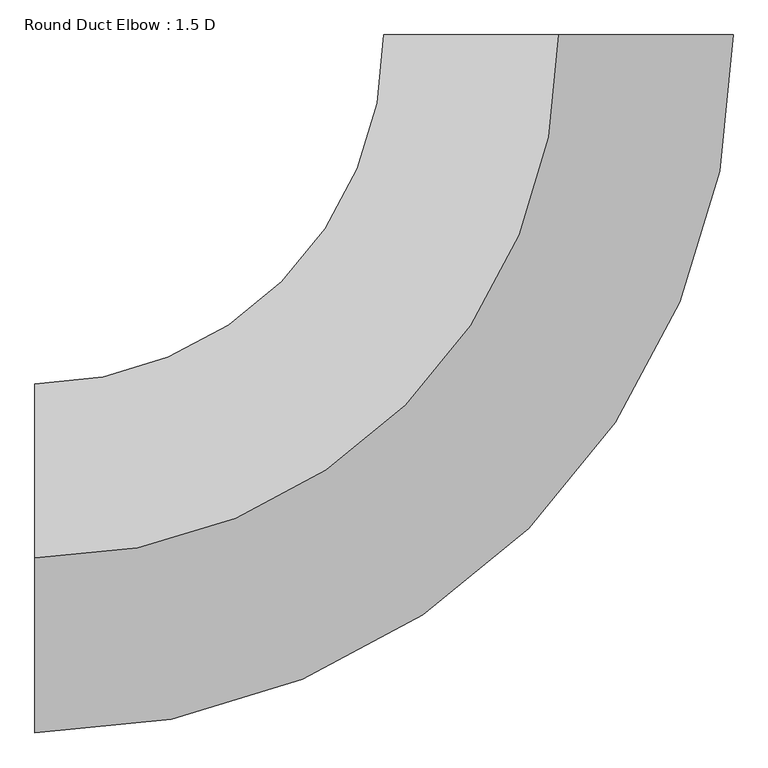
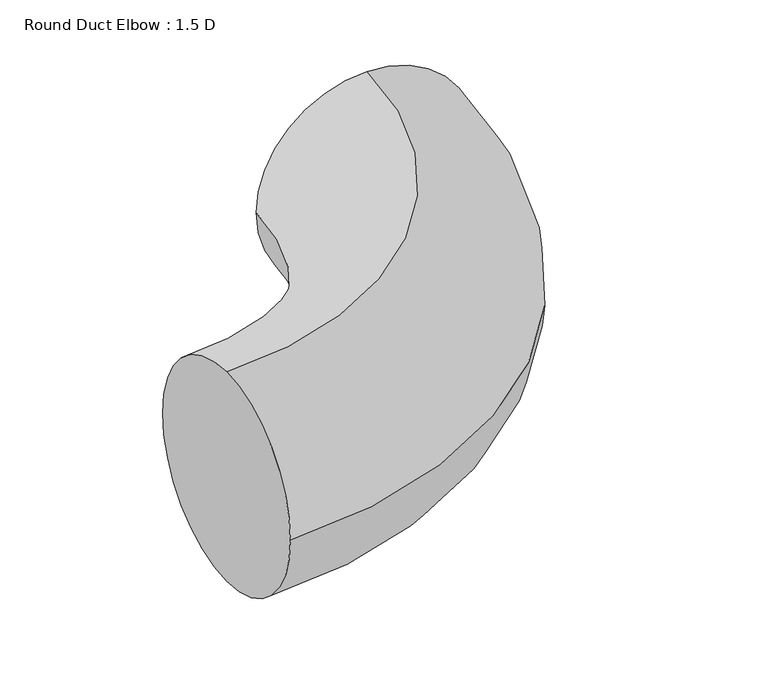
"""IFC4 building model written with IfcOpenShell, lengths in millimetres: duct fitting geometry, Round Duct Elbow : 1.5 D."""

from ifc_helpers import new_model, si_unit, point, frame, origin, place, context, project, spatial, circle_curve, ellipse_curve, trimmed, source, transform, mapped, element, save
from ifc_brep_helpers import plane_surface, revolved_surface, advanced_brep


def round_duct_elbow_1_5_d_5213bb2c(model_context):
    return source(origin(), model_context, "Body", "AdvancedBrep", [
        advanced_brep(
        [(-838.2, 0.0, 279.4), (-838.2, 279.4, 0.0), (-838.2, 0.0, -279.4), (-838.2, -279.4, 0.0), (0.0, 838.2, 279.4), (279.4, 838.2, 0.0), (0.0, 838.2, -279.4), (-279.4, 838.2, 0.0)],
        [
            (0, 1, circle_curve(frame((-838.2, 0.0, 0.0), z_axis=(-1.0, 0.0, 0.0), x_axis=(0.0, 1.0, 0.0)), 279.4)),
            (1, 2, circle_curve(frame((-838.2, 0.0, 0.0), z_axis=(-1.0, 0.0, 0.0), x_axis=(0.0, 1.0, 0.0)), 279.4)),
            (2, 3, circle_curve(frame((-838.2, 0.0, 0.0), z_axis=(-1.0, 0.0, 0.0), x_axis=(0.0, 1.0, 0.0)), 279.4)),
            (3, 0, circle_curve(frame((-838.2, 0.0, 0.0), z_axis=(-1.0, 0.0, 0.0), x_axis=(0.0, 1.0, 0.0)), 279.4)),
            (4, 5, circle_curve(frame((0.0, 838.2, 0.0), z_axis=(0.0, 1.0, 0.0), x_axis=(-1.0, 0.0, 0.0)), 279.4)),
            (5, 6, circle_curve(frame((0.0, 838.2, 0.0), z_axis=(0.0, 1.0, 0.0), x_axis=(-1.0, 0.0, 0.0)), 279.4)),
            (6, 7, circle_curve(frame((0.0, 838.2, 0.0), z_axis=(0.0, 1.0, 0.0), x_axis=(-1.0, 0.0, 0.0)), 279.4)),
            (7, 4, circle_curve(frame((0.0, 838.2, 0.0), z_axis=(0.0, 1.0, 0.0), x_axis=(-1.0, 0.0, 0.0)), 279.4)),
            (7, 1, circle_curve(frame((-838.2, 838.2, 0.0), z_axis=(0.0, 0.0, -1.0), x_axis=(0.0, -1.0, 0.0)), 558.8)),
            (0, 4, circle_curve(frame((-838.2, 838.2, 279.4), z_axis=(0.0, 0.0, 1.0), x_axis=(0.0, -1.0, 0.0)), 838.2)),
            (6, 2, circle_curve(frame((-838.2, 838.2, -279.4), z_axis=(0.0, 0.0, -1.0), x_axis=(0.0, -1.0, 0.0)), 838.2)),
            (5, 3, circle_curve(frame((-838.2, 838.2, 0.0), z_axis=(0.0, 0.0, -1.0), x_axis=(0.0, -1.0, 0.0)), 1117.6)),
        ],
        [
            plane_surface(frame((-838.2, 0.0, 0.0), z_axis=(-1.0, 0.0, 0.0), x_axis=(0.0, 0.0, 1.0))),
            plane_surface(frame((0.0, 838.2, 0.0), z_axis=(0.0, 1.0, 0.0), x_axis=(0.0, 0.0, 1.0))),
            revolved_surface(trimmed(ellipse_curve(frame((-838.2, 0.0, 0.0), z_axis=(-1.0, 0.0, 0.0), x_axis=(0.0, 1.0, 0.0)), 279.4, 279.4), [point((-838.2, 0.0, 279.4))], [point((-838.2, 279.4, 0.0))], True, "CARTESIAN"), (-838.2, 838.2, 0.0), (0.0, 0.0, 1.0)),
            revolved_surface(trimmed(ellipse_curve(frame((-838.2, 0.0, 0.0), z_axis=(-1.0, 0.0, 0.0), x_axis=(0.0, 1.0, 0.0)), 279.4, 279.4), [point((-838.2, 279.4, 0.0))], [point((-838.2, 0.0, -279.4))], True, "CARTESIAN"), (-838.2, 838.2, 0.0), (0.0, 0.0, 1.0)),
            revolved_surface(trimmed(ellipse_curve(frame((-838.2, 0.0, 0.0), z_axis=(-1.0, 0.0, 0.0), x_axis=(0.0, 1.0, 0.0)), 279.4, 279.4), [point((-838.2, 0.0, -279.4))], [point((-838.2, -279.4, 0.0))], True, "CARTESIAN"), (-838.2, 838.2, 0.0), (0.0, 0.0, 1.0)),
            revolved_surface(trimmed(ellipse_curve(frame((-838.2, 0.0, 0.0), z_axis=(-1.0, 0.0, 0.0), x_axis=(0.0, 1.0, 0.0)), 279.4, 279.4), [point((-838.2, -279.4, 0.0))], [point((-838.2, 0.0, 279.4))], True, "CARTESIAN"), (-838.2, 838.2, 0.0), (0.0, 0.0, 1.0)),
        ],
        [
            (0, [[1, 2, 3, 4]]),
            (1, [[5, 6, 7, 8]]),
            (2, [[9, -1, 10, -8]]),
            (3, [[11, -2, -9, -7]]),
            (4, [[12, -3, -11, -6]]),
            (5, [[-10, -4, -12, -5]]),
        ],
    ),
        advanced_brep(
        [(-838.2, 0.0, 279.4), (-838.2, 279.4, 0.0), (-838.2, 0.0, -279.4), (-838.2, -279.4, 0.0), (0.0, 838.2, 279.4), (279.4, 838.2, 0.0), (0.0, 838.2, -279.4), (-279.4, 838.2, 0.0)],
        [
            (0, 1, circle_curve(frame((-838.2, 0.0, 0.0), z_axis=(-1.0, 0.0, 0.0), x_axis=(0.0, 1.0, 0.0)), 279.4)),
            (1, 2, circle_curve(frame((-838.2, 0.0, 0.0), z_axis=(-1.0, 0.0, 0.0), x_axis=(0.0, 1.0, 0.0)), 279.4)),
            (2, 3, circle_curve(frame((-838.2, 0.0, 0.0), z_axis=(-1.0, 0.0, 0.0), x_axis=(0.0, 1.0, 0.0)), 279.4)),
            (3, 0, circle_curve(frame((-838.2, 0.0, 0.0), z_axis=(-1.0, 0.0, 0.0), x_axis=(0.0, 1.0, 0.0)), 279.4)),
            (4, 5, circle_curve(frame((0.0, 838.2, 0.0), z_axis=(0.0, 1.0, 0.0), x_axis=(-1.0, 0.0, 0.0)), 279.4)),
            (5, 6, circle_curve(frame((0.0, 838.2, 0.0), z_axis=(0.0, 1.0, 0.0), x_axis=(-1.0, 0.0, 0.0)), 279.4)),
            (6, 7, circle_curve(frame((0.0, 838.2, 0.0), z_axis=(0.0, 1.0, 0.0), x_axis=(-1.0, 0.0, 0.0)), 279.4)),
            (7, 4, circle_curve(frame((0.0, 838.2, 0.0), z_axis=(0.0, 1.0, 0.0), x_axis=(-1.0, 0.0, 0.0)), 279.4)),
            (7, 1, circle_curve(frame((-838.2, 838.2, 0.0), z_axis=(0.0, 0.0, -1.0), x_axis=(0.0, -1.0, 0.0)), 558.8)),
            (0, 4, circle_curve(frame((-838.2, 838.2, 279.4), z_axis=(0.0, 0.0, 1.0), x_axis=(0.0, -1.0, 0.0)), 838.2)),
            (6, 2, circle_curve(frame((-838.2, 838.2, -279.4), z_axis=(0.0, 0.0, -1.0), x_axis=(0.0, -1.0, 0.0)), 838.2)),
            (5, 3, circle_curve(frame((-838.2, 838.2, 0.0), z_axis=(0.0, 0.0, -1.0), x_axis=(0.0, -1.0, 0.0)), 1117.6)),
        ],
        [
            plane_surface(frame((-838.2, 0.0, 0.0), z_axis=(-1.0, 0.0, 0.0), x_axis=(0.0, 0.0, 1.0))),
            plane_surface(frame((0.0, 838.2, 0.0), z_axis=(0.0, 1.0, 0.0), x_axis=(0.0, 0.0, 1.0))),
            revolved_surface(trimmed(ellipse_curve(frame((-838.2, 0.0, 0.0), z_axis=(-1.0, 0.0, 0.0), x_axis=(0.0, 1.0, 0.0)), 279.4, 279.4), [point((-838.2, 0.0, 279.4))], [point((-838.2, 279.4, 0.0))], True, "CARTESIAN"), (-838.2, 838.2, 0.0), (0.0, 0.0, 1.0)),
            revolved_surface(trimmed(ellipse_curve(frame((-838.2, 0.0, 0.0), z_axis=(-1.0, 0.0, 0.0), x_axis=(0.0, 1.0, 0.0)), 279.4, 279.4), [point((-838.2, 279.4, 0.0))], [point((-838.2, 0.0, -279.4))], True, "CARTESIAN"), (-838.2, 838.2, 0.0), (0.0, 0.0, 1.0)),
            revolved_surface(trimmed(ellipse_curve(frame((-838.2, 0.0, 0.0), z_axis=(-1.0, 0.0, 0.0), x_axis=(0.0, 1.0, 0.0)), 279.4, 279.4), [point((-838.2, 0.0, -279.4))], [point((-838.2, -279.4, 0.0))], True, "CARTESIAN"), (-838.2, 838.2, 0.0), (0.0, 0.0, 1.0)),
            revolved_surface(trimmed(ellipse_curve(frame((-838.2, 0.0, 0.0), z_axis=(-1.0, 0.0, 0.0), x_axis=(0.0, 1.0, 0.0)), 279.4, 279.4), [point((-838.2, -279.4, 0.0))], [point((-838.2, 0.0, 279.4))], True, "CARTESIAN"), (-838.2, 838.2, 0.0), (0.0, 0.0, 1.0)),
        ],
        [
            (0, [[1, 2, 3, 4]]),
            (1, [[5, 6, 7, 8]]),
            (2, [[9, -1, 10, -8]]),
            (3, [[11, -2, -9, -7]]),
            (4, [[12, -3, -11, -6]]),
            (5, [[-10, -4, -12, -5]]),
        ],
    ),
        advanced_brep(
        [(-838.2, 0.0, 279.4), (-838.2, 279.4, 0.0), (-838.2, 0.0, -279.4), (-838.2, -279.4, 0.0), (0.0, 838.2, 279.4), (279.4, 838.2, 0.0), (0.0, 838.2, -279.4), (-279.4, 838.2, 0.0)],
        [
            (0, 1, circle_curve(frame((-838.2, 0.0, 0.0), z_axis=(-1.0, 0.0, 0.0), x_axis=(0.0, 1.0, 0.0)), 279.4)),
            (1, 2, circle_curve(frame((-838.2, 0.0, 0.0), z_axis=(-1.0, 0.0, 0.0), x_axis=(0.0, 1.0, 0.0)), 279.4)),
            (2, 3, circle_curve(frame((-838.2, 0.0, 0.0), z_axis=(-1.0, 0.0, 0.0), x_axis=(0.0, 1.0, 0.0)), 279.4)),
            (3, 0, circle_curve(frame((-838.2, 0.0, 0.0), z_axis=(-1.0, 0.0, 0.0), x_axis=(0.0, 1.0, 0.0)), 279.4)),
            (4, 5, circle_curve(frame((0.0, 838.2, 0.0), z_axis=(0.0, 1.0, 0.0), x_axis=(-1.0, 0.0, 0.0)), 279.4)),
            (5, 6, circle_curve(frame((0.0, 838.2, 0.0), z_axis=(0.0, 1.0, 0.0), x_axis=(-1.0, 0.0, 0.0)), 279.4)),
            (6, 7, circle_curve(frame((0.0, 838.2, 0.0), z_axis=(0.0, 1.0, 0.0), x_axis=(-1.0, 0.0, 0.0)), 279.4)),
            (7, 4, circle_curve(frame((0.0, 838.2, 0.0), z_axis=(0.0, 1.0, 0.0), x_axis=(-1.0, 0.0, 0.0)), 279.4)),
            (7, 1, circle_curve(frame((-838.2, 838.2, 0.0), z_axis=(0.0, 0.0, -1.0), x_axis=(0.0, -1.0, 0.0)), 558.8)),
            (0, 4, circle_curve(frame((-838.2, 838.2, 279.4), z_axis=(0.0, 0.0, 1.0), x_axis=(0.0, -1.0, 0.0)), 838.2)),
            (6, 2, circle_curve(frame((-838.2, 838.2, -279.4), z_axis=(0.0, 0.0, -1.0), x_axis=(0.0, -1.0, 0.0)), 838.2)),
            (5, 3, circle_curve(frame((-838.2, 838.2, 0.0), z_axis=(0.0, 0.0, -1.0), x_axis=(0.0, -1.0, 0.0)), 1117.6)),
        ],
        [
            plane_surface(frame((-838.2, 0.0, 0.0), z_axis=(-1.0, 0.0, 0.0), x_axis=(0.0, 0.0, 1.0))),
            plane_surface(frame((0.0, 838.2, 0.0), z_axis=(0.0, 1.0, 0.0), x_axis=(0.0, 0.0, 1.0))),
            revolved_surface(trimmed(ellipse_curve(frame((-838.2, 0.0, 0.0), z_axis=(-1.0, 0.0, 0.0), x_axis=(0.0, 1.0, 0.0)), 279.4, 279.4), [point((-838.2, 0.0, 279.4))], [point((-838.2, 279.4, 0.0))], True, "CARTESIAN"), (-838.2, 838.2, 0.0), (0.0, 0.0, 1.0)),
            revolved_surface(trimmed(ellipse_curve(frame((-838.2, 0.0, 0.0), z_axis=(-1.0, 0.0, 0.0), x_axis=(0.0, 1.0, 0.0)), 279.4, 279.4), [point((-838.2, 279.4, 0.0))], [point((-838.2, 0.0, -279.4))], True, "CARTESIAN"), (-838.2, 838.2, 0.0), (0.0, 0.0, 1.0)),
            revolved_surface(trimmed(ellipse_curve(frame((-838.2, 0.0, 0.0), z_axis=(-1.0, 0.0, 0.0), x_axis=(0.0, 1.0, 0.0)), 279.4, 279.4), [point((-838.2, 0.0, -279.4))], [point((-838.2, -279.4, 0.0))], True, "CARTESIAN"), (-838.2, 838.2, 0.0), (0.0, 0.0, 1.0)),
            revolved_surface(trimmed(ellipse_curve(frame((-838.2, 0.0, 0.0), z_axis=(-1.0, 0.0, 0.0), x_axis=(0.0, 1.0, 0.0)), 279.4, 279.4), [point((-838.2, -279.4, 0.0))], [point((-838.2, 0.0, 279.4))], True, "CARTESIAN"), (-838.2, 838.2, 0.0), (0.0, 0.0, 1.0)),
        ],
        [
            (0, [[1, 2, 3, 4]]),
            (1, [[5, 6, 7, 8]]),
            (2, [[9, -1, 10, -8]]),
            (3, [[11, -2, -9, -7]]),
            (4, [[12, -3, -11, -6]]),
            (5, [[-10, -4, -12, -5]]),
        ],
    ),
    ])


if __name__ == "__main__":
    model = new_model("IFC4")
    model_context = context("Model", 3, world=origin())
    ifc_project = project(units=[si_unit("LENGTHUNIT", "METRE", prefix="MILLI")], contexts=[model_context])
    site = spatial("IfcSite", under=ifc_project)
    building = spatial("IfcBuilding", under=site)
    placement = place(None, origin())
    round_duct_elbow_1_5_d_shape = round_duct_elbow_1_5_d_5213bb2c(model_context)
    element("IfcDuctFitting", 1, ObjectType="Round Duct Elbow : 1.5 D", at=placement, inside=building, context=model_context, shape_type="MappedRepresentation", body=[
        mapped(round_duct_elbow_1_5_d_shape, transform((0.0, 0.0, 0.0), x_axis=(1.0, 0.0, 0.0), y_axis=(0.0, 1.0, 0.0), z_axis=(0.0, 0.0, 1.0))),
    ])
    save(model, "model.ifc")
